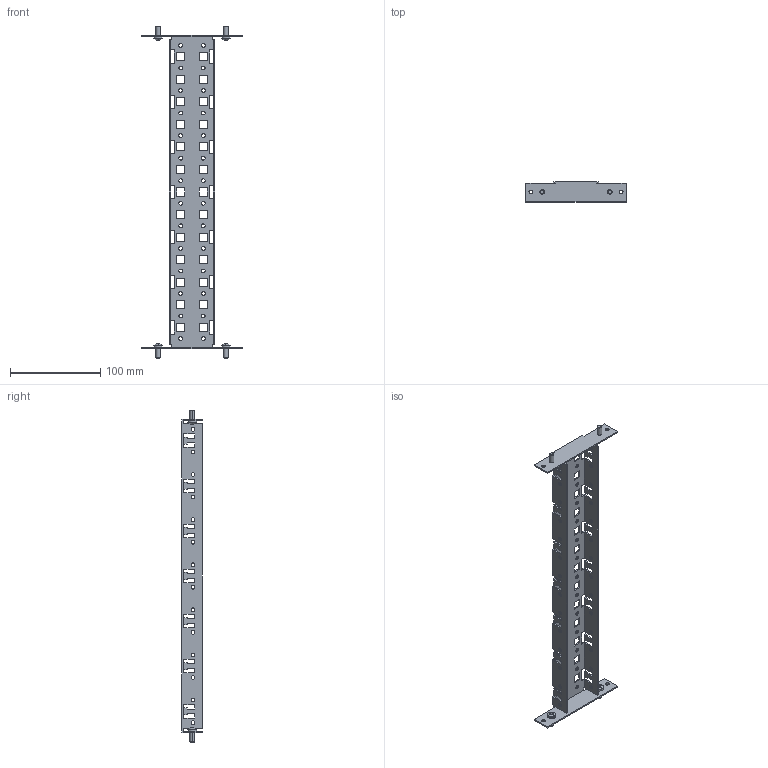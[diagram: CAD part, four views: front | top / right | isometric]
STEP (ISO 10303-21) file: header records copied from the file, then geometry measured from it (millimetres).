
FILE_DESCRIPTION(('Open CASCADE Model'),'2;1');
FILE_NAME('Open CASCADE Shape Model','2025-02-27T11:21:05',('Author'),( 'Open CASCADE'),'Open CASCADE STEP processor 7.8','Open CASCADE 7.8' ,'Unknown');
FILE_SCHEMA(('AUTOMOTIVE_DESIGN { 1 0 10303 214 1 1 1 1 }'));
Length unit declared in the file: millimetre
Products named in the file (3): Compound1; Solid1; Solid2
Assembly tree (5 placements, depth 2):
  Compound1
    Solid1
    Solid2  x4
Bounding box: 111 x 22.5 x 368 mm (x, y, z)
Volume: 47102.9 mm3; surface area: 68791.8 mm2
Topology: 5 solids, 5 shells, 590 faces, 1760 edges, 1148 vertices
Faces by surface type: plane 398, cylinder 144, cone 16, torus 16, bspline 8, sphere 8
Entity records: 18446 total; most frequent: CARTESIAN_POINT 3411, ORIENTED_EDGE 3216, DIRECTION 2926, EDGE_CURVE 1608, LINE 1314, VECTOR 1314, VERTEX_POINT 1067, AXIS2_PLACEMENT_3D 806
